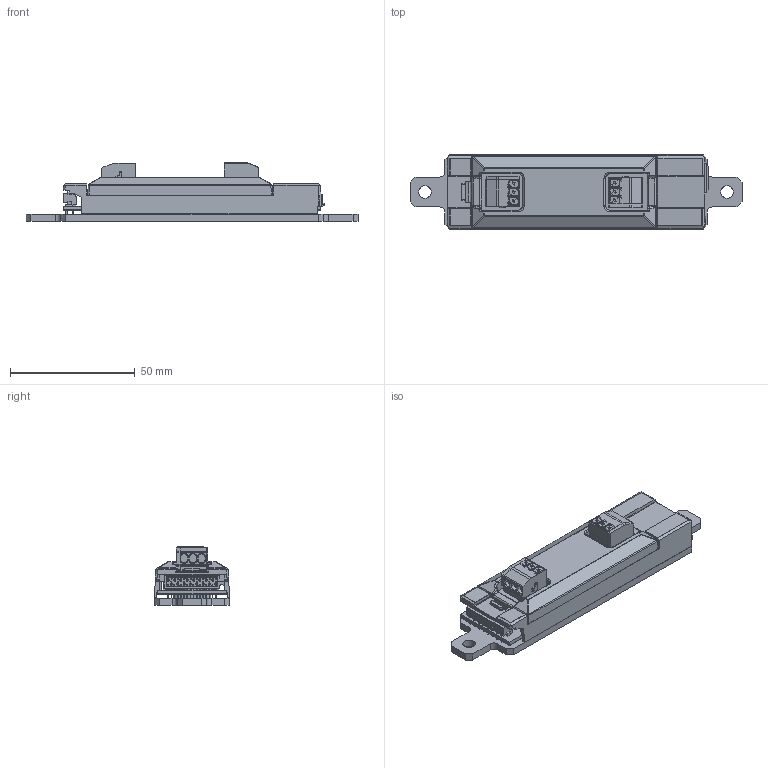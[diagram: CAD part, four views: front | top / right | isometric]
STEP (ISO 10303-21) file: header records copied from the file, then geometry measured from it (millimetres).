
FILE_DESCRIPTION (( 'STEP AP203' ), '1' );
FILE_NAME ('ALM WITH DMX NEW WAGO CONN 5.4.18.STEP', '2018-05-04T16:54:36', ( '' ), ( '' ), 'SwSTEP 2.0', 'SolidWorks 2017', '' );
FILE_SCHEMA (( 'CONFIG_CONTROL_DESIGN' ));
Products named in the file (1): ALM WITH DMX NEW WAGO CONN 5.4.18
Bounding box: 133 x 30.05 x 23.63 mm (x, y, z)
Volume: 30733.1 mm3; surface area: 44574.8 mm2
Topology: 22 solids, 22 shells, 3341 faces, 9073 edges, 5888 vertices
Faces by surface type: plane 2181, cylinder 820, bspline 168, cone 82, sphere 76, torus 14
Entity records: 114329 total; most frequent: CARTESIAN_POINT 31228, ORIENTED_EDGE 18144, DIRECTION 16054, EDGE_CURVE 9072, LINE 6694, VECTOR 6694, VERTEX_POINT 5888, AXIS2_PLACEMENT_3D 4680
